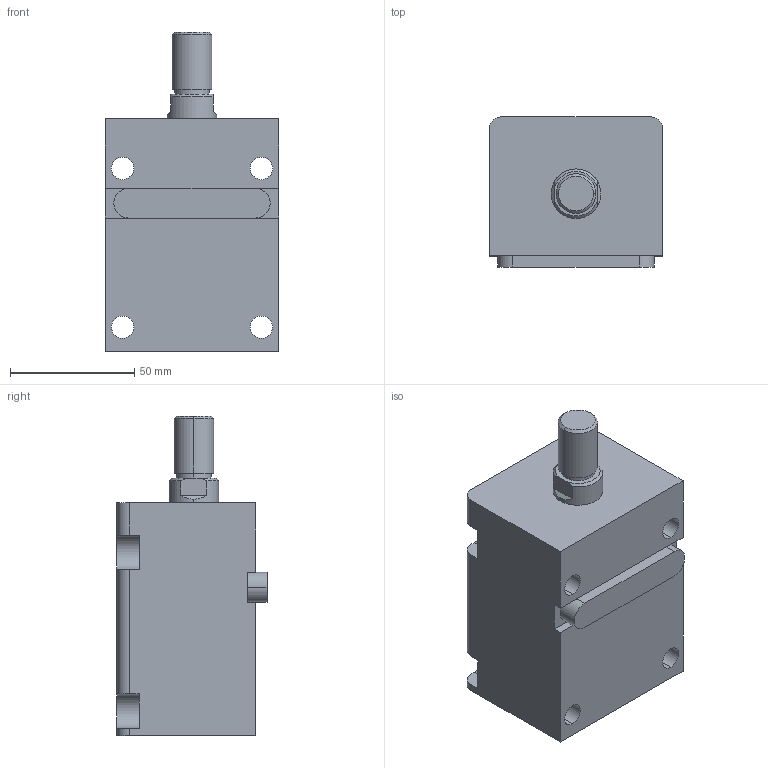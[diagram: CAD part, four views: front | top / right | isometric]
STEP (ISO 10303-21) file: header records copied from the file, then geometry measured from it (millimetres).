
FILE_DESCRIPTION (( 'STEP AP203' ), '1' );
FILE_NAME ('HTB-LA32-40W.STEP', '2019-10-09T06:27:57', ( '微软用户' ), ( '微软中国' ), 'SwSTEP 2.0', 'SolidWorks 2012', '' );
FILE_SCHEMA (( 'CONFIG_CONTROL_DESIGN' ));
Length unit declared in the file: millimetre
Products named in the file (4): HTB-LA32-40W; HTB-LA32-40掛极; HTB-LA32-40W活塞杆; HTB-LA32-瑩
Assembly tree (3 placements, depth 2):
  HTB-LA32-40W
    HTB-LA32-40掛极
    HTB-LA32-40W活塞杆
    HTB-LA32-瑩
Bounding box: 70 x 60.5 x 129 mm (x, y, z)
Volume: 338629 mm3; surface area: 58256.7 mm2
Topology: 3 solids, 3 shells, 92 faces, 223 edges, 146 vertices
Faces by surface type: plane 41, cylinder 37, cone 8, torus 6
Entity records: 3159 total; most frequent: DIRECTION 509, CARTESIAN_POINT 495, ORIENTED_EDGE 446, EDGE_CURVE 223, AXIS2_PLACEMENT_3D 196, VERTEX_POINT 146, VECTOR 117, LINE 117
